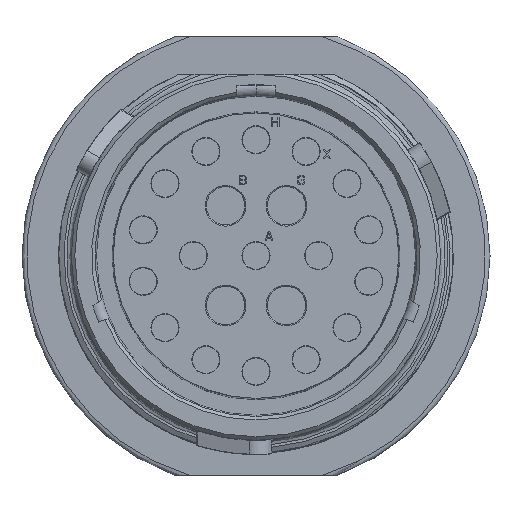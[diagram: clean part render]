
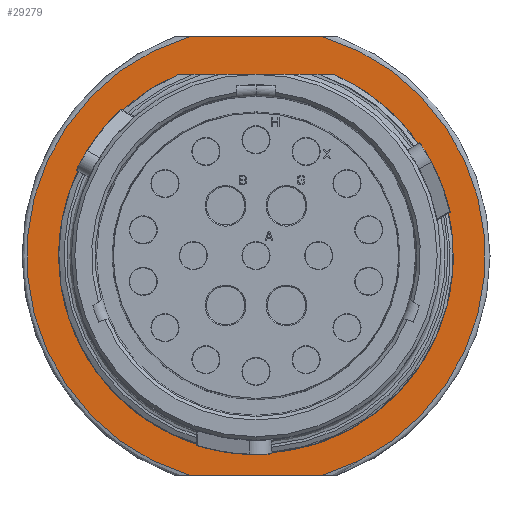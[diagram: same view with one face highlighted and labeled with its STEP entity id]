
A CAD part, top view. The second image highlights one B-rep face of the part: STEP entity #29279.
In plain terms, the highlighted planar face has unit normal (0, 0, 1).
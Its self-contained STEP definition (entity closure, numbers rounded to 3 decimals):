
#798=CARTESIAN_POINT('',(0.,0.,-26.162));
#799=DIRECTION('',(0.,0.,-1.));
#800=DIRECTION('',(0.393,0.919,0.));
#801=AXIS2_PLACEMENT_3D('',#798,#799,#800);
#6148=DIRECTION('',(-1.,0.,0.));
#6149=VECTOR('',#6148,14.502);
#6150=CARTESIAN_POINT('',(7.251,-23.813,-26.162));
#6151=LINE('',#6150,#6149);
#6152=DIRECTION('',(1.,0.,0.));
#6153=VECTOR('',#6152,14.502);
#6154=CARTESIAN_POINT('',(-7.251,23.813,-26.162));
#6155=LINE('',#6154,#6153);
#6156=DIRECTION('',(1.,0.,0.));
#6157=VECTOR('',#6156,16.85);
#6158=CARTESIAN_POINT('',(-8.425,19.685,-26.162));
#6159=LINE('',#6158,#6157);
#6160=CARTESIAN_POINT('',(0.,0.,-26.162));
#6161=DIRECTION('',(0.,0.,1.));
#6162=DIRECTION('',(0.291,-0.957,0.));
#6163=AXIS2_PLACEMENT_3D('',#6160,#6161,#6162);
#6170=CARTESIAN_POINT('',(7.251,23.813,-26.162));
#6220=CARTESIAN_POINT('',(-7.251,23.813,-26.162));
#6222=CARTESIAN_POINT('',(0.,0.,-26.162));
#6223=DIRECTION('',(0.,0.,1.));
#6224=DIRECTION('',(-0.291,0.957,0.));
#6225=AXIS2_PLACEMENT_3D('',#6222,#6223,#6224);
#6256=CARTESIAN_POINT('',(7.251,-23.813,-26.162));
#6258=CARTESIAN_POINT('',(-7.251,-23.813,-26.162));
#11207=CARTESIAN_POINT('',(-8.425,19.685,-26.162));
#11209=VERTEX_POINT('',#11207);
#11248=CARTESIAN_POINT('',(8.425,19.685,-26.162));
#11250=VERTEX_POINT('',#11248);
#11336=VERTEX_POINT('',#6170);
#11339=VERTEX_POINT('',#6256);
#11340=VERTEX_POINT('',#6258);
#11343=VERTEX_POINT('',#6220);
#29260=CARTESIAN_POINT('',(0.,0.,-26.162));
#29261=DIRECTION('',(0.,0.,1.));
#29262=DIRECTION('',(0.,1.,0.));
#29263=AXIS2_PLACEMENT_3D('',#29260,#29261,#29262);
#29264=PLANE('',#29263);
#29266=ORIENTED_EDGE('',*,*,#29265,.F.);
#29268=ORIENTED_EDGE('',*,*,#29267,.T.);
#29270=ORIENTED_EDGE('',*,*,#29269,.F.);
#29272=ORIENTED_EDGE('',*,*,#29271,.T.);
#29273=EDGE_LOOP('',(#29266,#29268,#29270,#29272));
#29274=FACE_OUTER_BOUND('',#29273,.F.);
#29275=ORIENTED_EDGE('',*,*,#13070,.F.);
#29276=ORIENTED_EDGE('',*,*,#12898,.F.);
#29277=EDGE_LOOP('',(#29275,#29276));
#29278=FACE_BOUND('',#29277,.F.);
#29279=ADVANCED_FACE('',(#29274,#29278),#29264,.T.);
#802=CIRCLE('',#801,21.412);
#6164=CIRCLE('',#6163,24.892);
#6226=CIRCLE('',#6225,24.892);
#12898=EDGE_CURVE('',#11209,#11250,#6159,.T.);
#13070=EDGE_CURVE('',#11250,#11209,#802,.T.);
#29265=EDGE_CURVE('',#11339,#11336,#6164,.T.);
#29267=EDGE_CURVE('',#11339,#11340,#6151,.T.);
#29269=EDGE_CURVE('',#11343,#11340,#6226,.T.);
#29271=EDGE_CURVE('',#11343,#11336,#6155,.T.);
